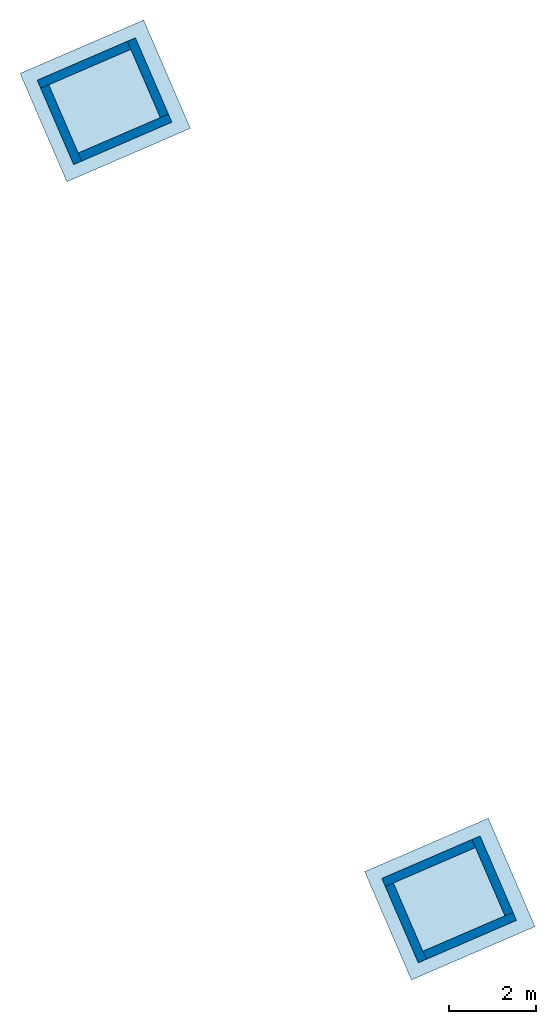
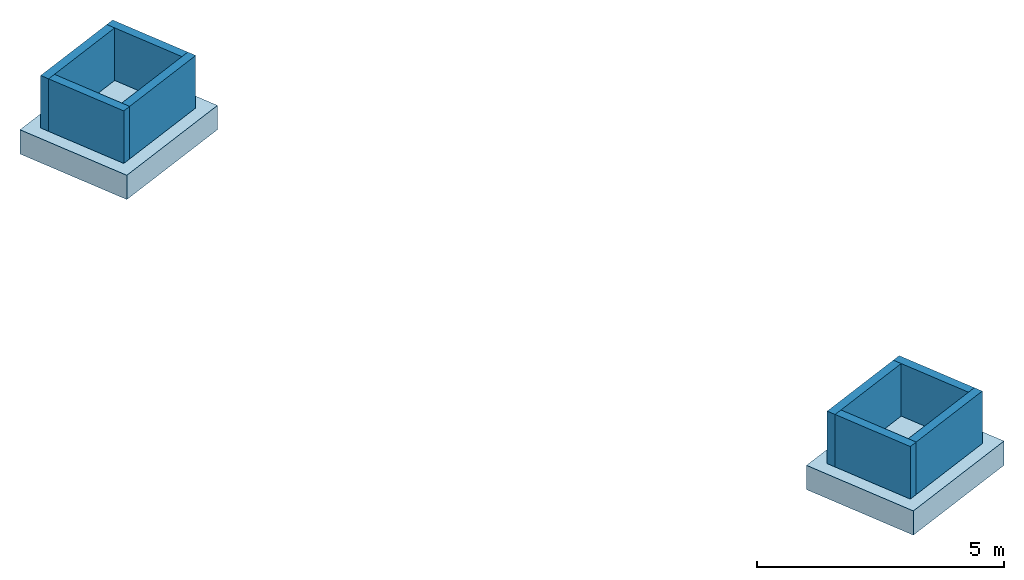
# One storey: 8 walls, 2 slabs.
"""IFC4 building model written with IfcOpenShell, lengths in metres."""

from ifc_helpers import new_model, entity, si_unit, converted_unit, derived_unit, direction, frame, origin, place, context, subcontext, project, spatial, indexed_curve, outline, extrude, material, type_object, element, save


model = new_model("IFC4")

# Units and contexts
model_context = context("Model", 3, precision=1e-05, world=origin(), true_north=direction((6.12323399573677e-17, 1.0)))
body_context = subcontext(model_context, "Body", "Model", "MODEL_VIEW")
ifc_project = project(units=[si_unit("LENGTHUNIT", "METRE"), si_unit("AREAUNIT", "SQUARE_METRE"), si_unit("VOLUMEUNIT", "CUBIC_METRE"), converted_unit("PLANEANGLEUNIT", "DEGREE", entity("IfcPlaneAngleMeasure", 0.0174532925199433), si_unit("PLANEANGLEUNIT", "RADIAN"), dimensions=[0, 0, 0, 0, 0, 0, 0]), si_unit("MASSUNIT", "GRAM", prefix="KILO"), derived_unit("MOMENTOFINERTIAUNIT", [(si_unit("LENGTHUNIT", "METRE"), 4)]), derived_unit("LINEARFORCEUNIT", [(si_unit("MASSUNIT", "GRAM", prefix="KILO"), 1), (si_unit("TIMEUNIT", "SECOND"), -2)]), derived_unit("WARPINGCONSTANTUNIT", [(si_unit("LENGTHUNIT", "METRE"), 6)]), derived_unit("THERMALTRANSMITTANCEUNIT", [(si_unit("MASSUNIT", "GRAM", prefix="KILO"), 1), (si_unit("THERMODYNAMICTEMPERATUREUNIT", "KELVIN"), -1), (si_unit("TIMEUNIT", "SECOND"), -3)]), derived_unit("USERDEFINED", [(si_unit("MASSUNIT", "GRAM", prefix="KILO"), 1), (si_unit("TIMEUNIT", "SECOND"), -2), (si_unit("THERMODYNAMICTEMPERATUREUNIT", "KELVIN"), -1)]), derived_unit("THERMALRESISTANCEUNIT", [(si_unit("MASSUNIT", "GRAM", prefix="KILO"), -1), (si_unit("TIMEUNIT", "SECOND"), 3), (si_unit("THERMODYNAMICTEMPERATUREUNIT", "KELVIN"), 1)])], contexts=[model_context])

# Site, building, storey
site_placement = place(None, origin())
site = spatial("IfcSite", under=ifc_project, at=site_placement, Name="Default", CompositionType="ELEMENT")
building_placement = place(site_placement, frame((12.6613425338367, -82.5732315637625, 317.15), z_axis=(0.0, 0.0, 1.0), x_axis=(-0.396377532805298, 0.918087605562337, 0.0)))
building = spatial("IfcBuilding", under=site, at=building_placement, Name="CESFAM Coyhaique", CompositionType="ELEMENT")
storey_placement = place(building_placement, frame((0.0, 0.0, -1.35)))
storey = spatial("IfcBuildingStorey", under=building, at=storey_placement, Name="Base MHA ASC", CompositionType="ELEMENT", Elevation=-1.35)

# Slabs
ifc_material = material(Name="HA")
slab_type = type_object("IfcSlabType", Name="Foundation Slab:LosaFundacion 600mm", PredefinedType="BASESLAB", material=ifc_material)
slab_1_placement = place(storey_placement, origin())
element("IfcSlab", 1, at=slab_1_placement, inside=storey, type_object=slab_type, material=ifc_material, Name="Foundation Slab:LosaFundacion 600mm", ObjectType="Foundation Slab:LosaFundacion 600mm", PredefinedType="BASESLAB", context=body_context, shape_type="SweptSolid", body=[
    extrude(outline(indexed_curve([(-1.53999992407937, -1.34995562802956), (1.53999992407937, -1.34995562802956), (1.53999992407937, 1.34995562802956), (-1.53999992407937, 1.34995562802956), (-1.53999992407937, -1.34995562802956)], self_intersect=False)), frame((19.4289740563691, -10.1571496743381, 0.0), z_axis=(0.0, 0.0, -1.0), x_axis=(0.0, 1.0, 0.0)), (0.0, 0.0, 1.0), 0.6),
])
slab_2_placement = place(storey_placement, origin())
element("IfcSlab", 2, at=slab_2_placement, inside=storey, type_object=slab_type, material=ifc_material, Name="Foundation Slab:LosaFundacion 600mm", ObjectType="Foundation Slab:LosaFundacion 600mm", PredefinedType="BASESLAB", context=body_context, shape_type="SweptSolid", body=[
    extrude(outline(indexed_curve([(-1.53999992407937, -1.34995562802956), (1.53999992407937, -1.34995562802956), (1.53999992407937, 1.34995562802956), (-1.53999992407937, 1.34995562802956), (-1.53999992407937, -1.34995562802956)], self_intersect=False)), frame((39.3090499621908, -10.1571496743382, 0.0), z_axis=(0.0, 0.0, -1.0), x_axis=(0.0, 1.0, 0.0)), (0.0, 0.0, 1.0), 0.6),
])

# Walls
wall_type = type_object("IfcWallType", Name="Basic Wall:Contención-HA_200mm", PredefinedType="STANDARD")
wall_1_placement = place(storey_placement, frame((18.3790184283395, -9.01714975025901, 0.0)))
element("IfcWall", 3, at=wall_1_placement, inside=storey, type_object=wall_type, material=ifc_material, Name="Basic Wall:Contención-HA_200mm", ObjectType="Basic Wall:Contención-HA_200mm", PredefinedType="NOTDEFINED", context=body_context, shape_type="SweptSolid", body=[
    extrude(outline(indexed_curve([(1.89991125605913, 0.1), (0.0, 0.1), (0.0, -0.1), (1.89991125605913, -0.1), (1.89991125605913, 0.1)], self_intersect=False)), origin(), (0.0, 0.0, 1.0), 1.3),
])
wall_2_placement = place(storey_placement, frame((18.4790184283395, -11.3621497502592, 0.0), z_axis=(0.0, 0.0, 1.0), x_axis=(0.0, 1.0, 0.0)))
element("IfcWall", 4, at=wall_2_placement, inside=storey, type_object=wall_type, material=ifc_material, Name="Basic Wall:Contención-HA_200mm", ObjectType="Basic Wall:Contención-HA_200mm", PredefinedType="NOTDEFINED", context=body_context, shape_type="SweptSolid", body=[
    extrude(outline(indexed_curve([(2.24500000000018, 0.0999999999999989), (0.0, 0.0999999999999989), (0.0, -0.0999999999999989), (2.24500000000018, -0.0999999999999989), (2.24500000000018, 0.0999999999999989)], self_intersect=False)), origin(), (0.0, 0.0, 1.0), 1.3),
])
wall_3_placement = place(storey_placement, frame((20.4789296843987, -11.2621497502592, 0.0), z_axis=(0.0, 0.0, 1.0), x_axis=(-1.0, 0.0, 0.0)))
element("IfcWall", 5, at=wall_3_placement, inside=storey, type_object=wall_type, material=ifc_material, Name="Basic Wall:Contención-HA_200mm", ObjectType="Basic Wall:Contención-HA_200mm", PredefinedType="NOTDEFINED", context=body_context, shape_type="SweptSolid", body=[
    extrude(outline(indexed_curve([(1.89991125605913, 0.100000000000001), (0.0, 0.100000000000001), (0.0, -0.100000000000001), (1.89991125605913, -0.100000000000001), (1.89991125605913, 0.100000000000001)], self_intersect=False)), origin(), (0.0, 0.0, 1.0), 1.3),
])
wall_4_placement = place(storey_placement, frame((20.3789296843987, -8.91714975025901, 0.0), z_axis=(0.0, 0.0, 1.0), x_axis=(0.0, -1.0, 0.0)))
element("IfcWall", 6, at=wall_4_placement, inside=storey, type_object=wall_type, material=ifc_material, Name="Basic Wall:Contención-HA_200mm", ObjectType="Basic Wall:Contención-HA_200mm", PredefinedType="NOTDEFINED", context=body_context, shape_type="SweptSolid", body=[
    extrude(outline(indexed_curve([(2.24500000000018, 0.0999999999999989), (0.0, 0.0999999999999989), (0.0, -0.0999999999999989), (2.24500000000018, -0.0999999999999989), (2.24500000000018, 0.0999999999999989)], self_intersect=False)), origin(), (0.0, 0.0, 1.0), 1.3),
])
wall_5_placement = place(storey_placement, frame((38.2590943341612, -9.01714975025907, 0.0)))
element("IfcWall", 7, at=wall_5_placement, inside=storey, type_object=wall_type, material=ifc_material, Name="Basic Wall:Contención-HA_200mm", ObjectType="Basic Wall:Contención-HA_200mm", PredefinedType="NOTDEFINED", context=body_context, shape_type="SweptSolid", body=[
    extrude(outline(indexed_curve([(1.89991125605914, 0.1), (0.0, 0.1), (0.0, -0.1), (1.89991125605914, -0.1), (1.89991125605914, 0.1)], self_intersect=False)), origin(), (0.0, 0.0, 1.0), 1.3),
])
wall_6_placement = place(storey_placement, frame((38.3590943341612, -11.3621497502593, 0.0), z_axis=(0.0, 0.0, 1.0), x_axis=(0.0, 1.0, 0.0)))
element("IfcWall", 8, at=wall_6_placement, inside=storey, type_object=wall_type, material=ifc_material, Name="Basic Wall:Contención-HA_200mm", ObjectType="Basic Wall:Contención-HA_200mm", PredefinedType="NOTDEFINED", context=body_context, shape_type="SweptSolid", body=[
    extrude(outline(indexed_curve([(2.24500000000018, 0.0999999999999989), (0.0, 0.0999999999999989), (0.0, -0.0999999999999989), (2.24500000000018, -0.0999999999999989), (2.24500000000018, 0.0999999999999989)], self_intersect=False)), origin(), (0.0, 0.0, 1.0), 1.3),
])
wall_7_placement = place(storey_placement, frame((40.3590055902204, -11.2621497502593, 0.0), z_axis=(0.0, 0.0, 1.0), x_axis=(-1.0, 0.0, 0.0)))
element("IfcWall", 9, at=wall_7_placement, inside=storey, type_object=wall_type, material=ifc_material, Name="Basic Wall:Contención-HA_200mm", ObjectType="Basic Wall:Contención-HA_200mm", PredefinedType="NOTDEFINED", context=body_context, shape_type="SweptSolid", body=[
    extrude(outline(indexed_curve([(1.89991125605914, 0.100000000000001), (0.0, 0.100000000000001), (0.0, -0.100000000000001), (1.89991125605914, -0.100000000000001), (1.89991125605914, 0.100000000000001)], self_intersect=False)), origin(), (0.0, 0.0, 1.0), 1.3),
])
wall_8_placement = place(storey_placement, frame((40.2590055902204, -8.91714975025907, 0.0), z_axis=(0.0, 0.0, 1.0), x_axis=(0.0, -1.0, 0.0)))
element("IfcWall", 10, at=wall_8_placement, inside=storey, type_object=wall_type, material=ifc_material, Name="Basic Wall:Contención-HA_200mm", ObjectType="Basic Wall:Contención-HA_200mm", PredefinedType="NOTDEFINED", context=body_context, shape_type="SweptSolid", body=[
    extrude(outline(indexed_curve([(2.24500000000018, 0.100000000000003), (0.0, 0.100000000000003), (0.0, -0.100000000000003), (2.24500000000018, -0.100000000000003), (2.24500000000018, 0.100000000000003)], self_intersect=False)), origin(), (0.0, 0.0, 1.0), 1.3),
])

save(model, "model.ifc")
